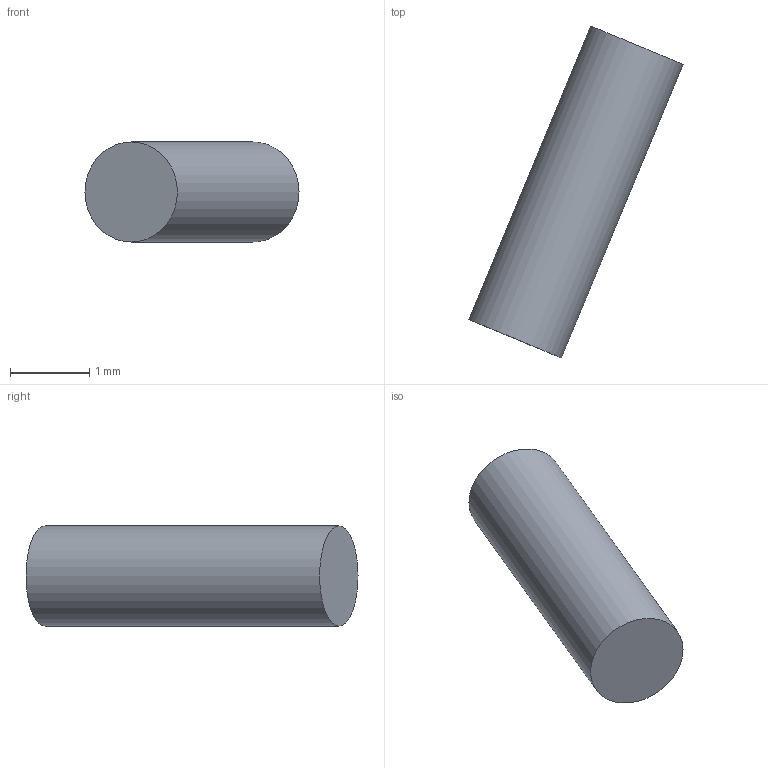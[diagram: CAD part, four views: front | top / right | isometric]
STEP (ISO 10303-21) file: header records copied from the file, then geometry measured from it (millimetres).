
FILE_DESCRIPTION(('Open CASCADE Model'),'2;1');
FILE_NAME('Open CASCADE Shape Model','2026-09-24T19:52:59',('Author'),( 'Open CASCADE'),'Open CASCADE STEP processor 7.8','Open CASCADE 7.8' ,'Unknown');
FILE_SCHEMA(('AUTOMOTIVE_DESIGN { 1 0 10303 214 1 1 1 1 }'));
Length unit declared in the file: millimetre
Products named in the file (1): Open CASCADE STEP translator 7.8 70
Bounding box: 2.69 x 4.18 x 1.26 mm (x, y, z)
Volume: 5 mm3; surface area: 18.3 mm2
Topology: 1 solids, 1 shells, 3 faces, 3 edges, 2 vertices
Faces by surface type: plane 2, cylinder 1
Full cylindrical faces by diameter (mm): 1.26 x1
Entity records: 108 total; most frequent: DIRECTION 19, CARTESIAN_POINT 15, AXIS2_PLACEMENT_3D 6, ORIENTED_EDGE 6, PCURVE 6, DEFINITIONAL_REPRESENTATION 6, LINE 5, VECTOR 5
